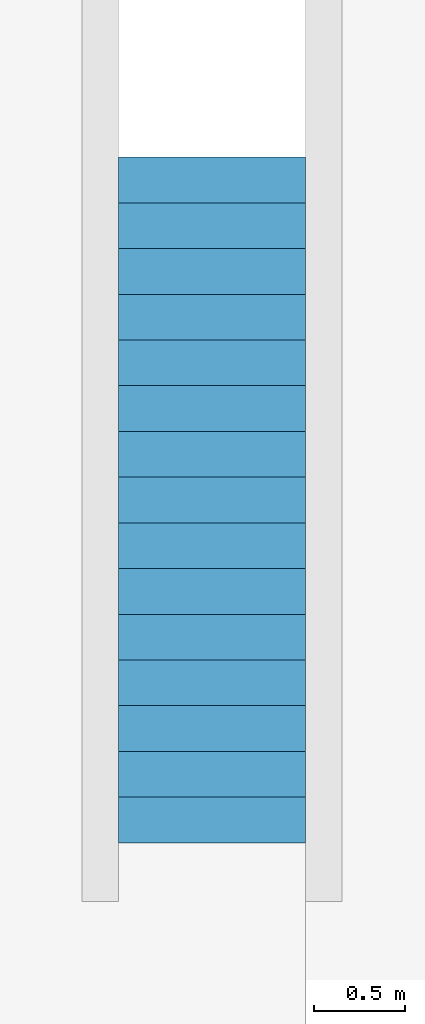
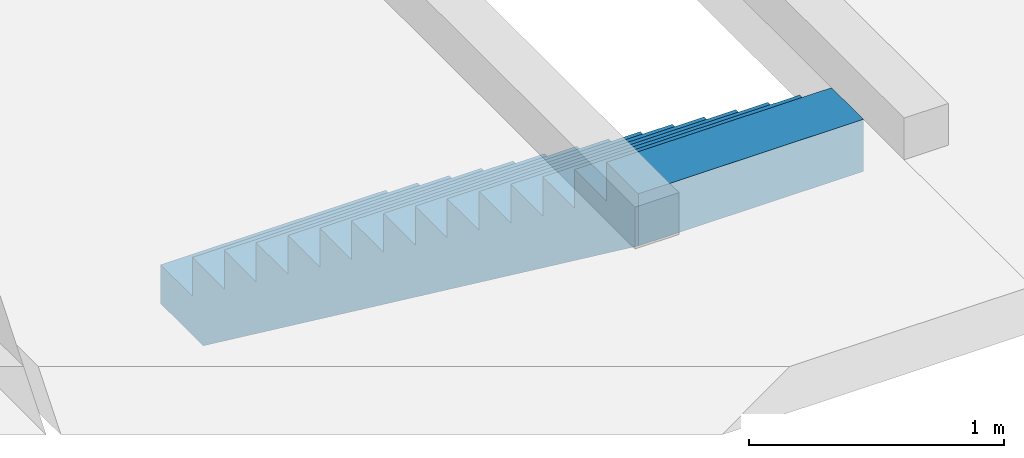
# One storey, part 7 of 8: 1 stair.
"""IFC2X3 building model written with IfcOpenShell, lengths in metres."""

import ifcopenshell
import ifcopenshell.guid

model = None  # the IFC model being written
_history = None  # IfcOwnerHistory: only IFC2X3 demands one
_inside = {}  # id of a spatial element -> (the spatial element, [elements in it])
_under = {}  # id of a project, library or spatial element -> (it, [spatial elements below it])
_declared = {}  # id of a project -> (the project, [libraries it declares])
_typed = {}  # id of a type object -> (the type object, [elements of that type])
_made_of = {}  # id of a material, layer set ... -> (it, [elements and type objects made of it])


def new_model(schema):
    """Start an empty IFC model of exactly this schema.

    Asked for "IFC4X3", IfcOpenShell would pick the latest addendum, in which some entities
    have other attributes; the version numbers below select the first issue.
    IFC2X3 requires an IfcOwnerHistory on every rooted entity: one is made here for all.
    """
    global model, _history
    if schema == "IFC4X3":
        model = ifcopenshell.file(schema_version=(4, 3, 0, 0))
    else:
        model = ifcopenshell.file(schema=schema)
    _inside.clear()
    _under.clear()
    _declared.clear()
    _typed.clear()
    _made_of.clear()
    _history = None
    if model.schema == "IFC2X3":
        org = make("IfcOrganization", Name="unknown")
        user = make(
            "IfcPersonAndOrganization",
            ThePerson=make("IfcPerson", FamilyName="unknown"),
            TheOrganization=org,
        )
        app = make(
            "IfcApplication",
            ApplicationDeveloper=org,
            Version="unknown",
            ApplicationFullName="unknown",
            ApplicationIdentifier="unknown",
        )
        _history = make(
            "IfcOwnerHistory",
            OwningUser=user,
            OwningApplication=app,
            ChangeAction="ADDED",
            CreationDate=0,
        )
    return model


def make(cls, **values):
    """One entity of the class cls with the attributes given. An attribute that is None is left unset."""
    return model.create_entity(
        cls, **{name: value for name, value in values.items() if value is not None}
    )


def entity(cls, *values):
    """Any entity or typed value of the class cls, its attributes in the order of the schema. None: left unset."""
    e = model.create_entity(cls)
    for i, value in enumerate(values):
        if value is not None:
            e[i] = value
    return e


def rooted(cls, **values):
    """An entity with a GlobalId (a new one), such as an element, a storey or a relation."""
    return make(cls, GlobalId=ifcopenshell.guid.new(), OwnerHistory=_history, **values)


def si_unit(unit_type, name, prefix=None):
    """IfcSIUnit, for example si_unit("LENGTHUNIT", "METRE", prefix="MILLI")."""
    return make("IfcSIUnit", UnitType=unit_type, Prefix=prefix, Name=name)


def converted_unit(unit_type, name, factor, base, dimensions=None, offset=None):
    """IfcConversionBasedUnit, such as the inch: factor (a typed value) times the base unit."""
    return make(
        "IfcConversionBasedUnit"
        if offset is None
        else "IfcConversionBasedUnitWithOffset",
        ConversionOffset=offset,
        Dimensions=None
        if dimensions is None
        else entity("IfcDimensionalExponents", *dimensions),
        UnitType=unit_type,
        Name=name,
        ConversionFactor=make(
            "IfcMeasureWithUnit", ValueComponent=factor, UnitComponent=base
        ),
    )


def money_unit(currency):
    """IfcMonetaryUnit."""
    return make("IfcMonetaryUnit", Currency=currency)


def assignment(units):
    """IfcUnitAssignment: the units of a project."""
    return None if units is None else make("IfcUnitAssignment", Units=units)


def point(xyz):
    """IfcCartesianPoint."""
    return None if xyz is None else make("IfcCartesianPoint", Coordinates=xyz)


def direction(xyz):
    """IfcDirection."""
    return None if xyz is None else make("IfcDirection", DirectionRatios=xyz)


def frame(location, z_axis=None, x_axis=None):
    """IfcAxis2Placement3D, a coordinate frame: its origin and axes. An axis left out is left unset."""
    return make(
        "IfcAxis2Placement3D",
        Location=point(location),
        Axis=direction(z_axis),
        RefDirection=direction(x_axis),
    )


def origin_with_axes():
    """The frame at (0, 0, 0) with the z axis (0, 0, 1) and the x axis (1, 0, 0) written out."""
    return frame((0.0, 0.0, 0.0), z_axis=(0.0, 0.0, 1.0), x_axis=(1.0, 0.0, 0.0))


def place(relative_to, where):
    """IfcLocalPlacement: puts the frame where relative to a parent placement (None: the world)."""
    return make(
        "IfcLocalPlacement", PlacementRelTo=relative_to, RelativePlacement=where
    )


def context(
    kind, dimensions, precision=None, world=None, true_north=None, identifier=None
):
    """IfcGeometricRepresentationContext, for example the 3D "Model" context."""
    return make(
        "IfcGeometricRepresentationContext",
        ContextIdentifier=identifier,
        ContextType=kind,
        CoordinateSpaceDimension=dimensions,
        Precision=precision,
        WorldCoordinateSystem=world,
        TrueNorth=true_north,
    )


def subcontext(parent, identifier, kind, view, scale=None):
    """IfcGeometricRepresentationSubContext, for example "Body" below "Model"."""
    return make(
        "IfcGeometricRepresentationSubContext",
        ContextIdentifier=identifier,
        ContextType=kind,
        ParentContext=parent,
        TargetScale=scale,
        TargetView=view,
    )


def project(units=None, contexts=None):
    """IfcProject with its units and contexts."""
    return rooted(
        "IfcProject",
        Name="project",
        RepresentationContexts=contexts,
        UnitsInContext=assignment(units),
    )


def spatial(cls, under=None, at=None, **own):
    """A site, building, storey or space (cls), placed at a placement, below another one or the project."""
    s = rooted(cls, ObjectPlacement=at, **own)
    if under is not None:
        _under.setdefault(under.id(), (under, []))[1].append(s)
    return s


def faces_of(points, faces, orient=None, outer=None):
    """IfcFace entities. A face is a list of loops; a loop is a list of indices into points, from 0.

    orient and outer hold one flag for each loop. By default every Orientation is true, the
    first loop of a face is its IfcFaceOuterBound and the others are IfcFaceBound.
    """
    made = []
    for i, loops in enumerate(faces):
        bounds = []
        for j, loop in enumerate(loops):
            is_outer = j == 0 if outer is None else outer[i][j]
            bounds.append(
                make(
                    "IfcFaceOuterBound" if is_outer else "IfcFaceBound",
                    Bound=make("IfcPolyLoop", Polygon=[points[k] for k in loop]),
                    Orientation=True if orient is None else orient[i][j],
                )
            )
        made.append(make("IfcFace", Bounds=bounds))
    return made


def faceted_brep(points, faces, orient=None, outer=None, voids=None):
    """IfcFacetedBrep: a solid bounded by flat faces; with voids (closed shells), ...WithVoids."""
    shared = [point(p) for p in points]
    hull = make("IfcClosedShell", CfsFaces=faces_of(shared, faces, orient, outer))
    if voids is None:
        return make("IfcFacetedBrep", Outer=hull)
    return make(
        "IfcFacetedBrepWithVoids",
        Outer=hull,
        Voids=[
            make(cls, CfsFaces=faces_of(shared, fs, o, b)) for cls, fs, o, b in voids
        ],
    )


def shape(context_of_items, identifier, shape_type, items):
    """IfcShapeRepresentation: the items that make up one representation, for example the "Body"."""
    return make(
        "IfcShapeRepresentation",
        ContextOfItems=context_of_items,
        RepresentationIdentifier=identifier,
        RepresentationType=shape_type,
        Items=items,
    )


def material(Name=None, Category=None):
    """IfcMaterial."""
    return make("IfcMaterial", Name=Name, Category=Category)


def made_of(thing, what):
    """Note that an element or type object is made of a material, layer set ...; save() writes the relation."""
    if what is not None:
        _made_of.setdefault(what.id(), (what, []))[1].append(thing)
    return thing


def element(
    cls,
    number,
    at=None,
    inside=None,
    cuts=None,
    type_object=None,
    material=None,
    context=None,
    identifier="Body",
    shape_type=None,
    held_by="IfcProductDefinitionShape",
    body=None,
    shapes=None,
    **own,
):
    """One element of the class cls, such as IfcWall. Its Tag is "e" and its number.

    at: its placement. inside: the storey or other place that contains it. cuts: it is an
    opening in that element (IfcRelVoidsElement). A single representation is given by context,
    identifier, shape_type and body (its items); several are given by shapes. held_by: the class
    of the entity that holds the representations. save() writes the other relations.
    """
    e = rooted(cls, Tag="e%d" % number, ObjectPlacement=at, **own)
    if body is not None:
        shapes = [shape(context, identifier, shape_type, body)]
    if shapes is not None:
        e.Representation = make(held_by, Representations=shapes)
    if inside is not None:
        _inside.setdefault(inside.id(), (inside, []))[1].append(e)
    if cuts is not None:
        rooted(
            "IfcRelVoidsElement", RelatingBuildingElement=cuts, RelatedOpeningElement=e
        )
    if type_object is not None:
        _typed.setdefault(type_object.id(), (type_object, []))[1].append(e)
    return made_of(e, material)


def aggregate(whole, parts):
    """IfcRelAggregates: a whole, such as a stair, and the parts it consists of."""
    return rooted("IfcRelAggregates", RelatingObject=whole, RelatedObjects=parts)


def save(model, path):
    """Write the relations noted so far, then the file.

    IfcRelAggregates (storeys below a building ...), IfcRelContainedInSpatialStructure (elements
    in a storey), IfcRelDefinesByType, IfcRelAssociatesMaterial and IfcRelDeclares: one each for
    every whole, place, type object, material and project.
    """
    for whole, parts in _under.values():
        aggregate(whole, parts)
    for where, things in _inside.values():
        rooted(
            "IfcRelContainedInSpatialStructure",
            RelatedElements=things,
            RelatingStructure=where,
        )
    for kind, things in _typed.values():
        rooted("IfcRelDefinesByType", RelatedObjects=things, RelatingType=kind)
    for what, things in _made_of.values():
        rooted("IfcRelAssociatesMaterial", RelatedObjects=things, RelatingMaterial=what)
    for by, libraries in _declared.values():
        rooted("IfcRelDeclares", RelatingContext=by, RelatedDefinitions=libraries)
    model.write(path)


model = new_model("IFC2X3")

# Units and contexts
model_context = context("Model", 3, precision=1e-05, world=origin_with_axes(), true_north=direction((0.0, 1.0)))
body_context = subcontext(model_context, "Body", "Model", "MODEL_VIEW")
ifc_project = project(units=[si_unit("LENGTHUNIT", "METRE"), si_unit("AREAUNIT", "SQUARE_METRE"), si_unit("VOLUMEUNIT", "CUBIC_METRE"), converted_unit("PLANEANGLEUNIT", "DEGREE", entity("IfcPlaneAngleMeasure", 0.0174532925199), si_unit("PLANEANGLEUNIT", "RADIAN"), dimensions=[0, 0, 0, 0, 0, 0, 0]), si_unit("SOLIDANGLEUNIT", "STERADIAN"), money_unit("EUR"), si_unit("TIMEUNIT", "SECOND"), si_unit("MASSUNIT", "GRAM"), si_unit("THERMODYNAMICTEMPERATUREUNIT", "DEGREE_CELSIUS"), si_unit("LUMINOUSINTENSITYUNIT", "LUMEN")], contexts=[model_context])

# Site, building, storey
site_placement = place(None, origin_with_axes())
site = spatial("IfcSite", under=ifc_project, at=site_placement, Name="Gelände", CompositionType="ELEMENT")
building_placement = place(site_placement, origin_with_axes())
building = spatial("IfcBuilding", under=site, at=building_placement, Name="Gebäude", CompositionType="ELEMENT")
storey_placement = place(building_placement, origin_with_axes())
storey = spatial("IfcBuildingStorey", under=building, at=storey_placement, Name="Erdgeschoss", CompositionType="ELEMENT", Elevation=0.0)

# Stair
ifc_material = material(Name="Beton")
stair_placement = place(storey_placement, frame((21.8539792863, 0.257794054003, -2.8), z_axis=(0.0, 0.0, 1.0), x_axis=(0.0, -1.0, 0.0)))
element("IfcStair", 1, at=stair_placement, inside=storey, material=ifc_material, Name="Treppe-003", ShapeType="NOTDEFINED", context=body_context, shape_type="Brep", body=[
    faceted_brep([(0.0, 1.02, 0.0), (0.0, 0.0, 0.0), (0.0, 0.0, 0.005), (0.0, 1.02, 0.005), (0.25, 0.0, 0.0), (0.25, 0.0, 0.18667), (0.0, 0.0, 0.18667), (0.0, 1.02, 0.18667), (0.25, 1.02, 0.18667), (0.25, 1.02, 0.0), (0.33429, 0.0, 0.0), (0.33429, 0.0, 0.37333), (0.25, 0.0, 0.37333), (0.25, 1.02, 0.37333), (0.33429, 1.02, 0.37333), (0.33429, 1.02, 0.0), (0.5, 0.0, 0.12371), (0.5, 0.0, 0.37333), (0.5, 1.02, 0.37333), (0.5, 1.02, 0.12371), (0.75, 0.0, 0.31035), (0.75, 0.0, 0.56), (0.5, 0.0, 0.56), (0.5, 1.02, 0.56), (0.75, 1.02, 0.56), (0.75, 1.02, 0.31035), (1.0, 0.0, 0.49699), (1.0, 0.0, 0.74667), (0.75, 0.0, 0.74667), (0.75, 1.02, 0.74667), (1.0, 1.02, 0.74667), (1.0, 1.02, 0.49699), (1.25, 0.0, 0.68363), (1.25, 0.0, 0.93333), (1.0, 0.0, 0.93333), (1.0, 1.02, 0.93333), (1.25, 1.02, 0.93333), (1.25, 1.02, 0.68363), (1.5, 0.0, 0.87026), (1.5, 0.0, 1.12), (1.25, 0.0, 1.12), (1.25, 1.02, 1.12), (1.5, 1.02, 1.12), (1.5, 1.02, 0.87026), (1.75, 0.0, 1.0569), (1.75, 0.0, 1.30667), (1.5, 0.0, 1.30667), (1.5, 1.02, 1.30667), (1.75, 1.02, 1.30667), (1.75, 1.02, 1.0569), (2.0, 0.0, 1.24354), (2.0, 0.0, 1.49333), (1.75, 0.0, 1.49333), (1.75, 1.02, 1.49333), (2.0, 1.02, 1.49333), (2.0, 1.02, 1.24354), (2.25, 0.0, 1.43018), (2.25, 0.0, 1.68), (2.0, 0.0, 1.68), (2.0, 1.02, 1.68), (2.25, 1.02, 1.68), (2.25, 1.02, 1.43018), (2.5, 0.0, 1.61681), (2.5, 0.0, 1.86667), (2.25, 0.0, 1.86667), (2.25, 1.02, 1.86667), (2.5, 1.02, 1.86667), (2.5, 1.02, 1.61681), (2.75, 0.0, 1.80345), (2.75, 0.0, 2.05333), (2.5, 0.0, 2.05333), (2.5, 1.02, 2.05333), (2.75, 1.02, 2.05333), (2.75, 1.02, 1.80345), (3.0, 0.0, 1.99009), (3.0, 0.0, 2.24), (2.75, 0.0, 2.24), (2.75, 1.02, 2.24), (3.0, 1.02, 2.24), (3.0, 1.02, 1.99009), (3.25, 0.0, 2.17673), (3.25, 0.0, 2.42667), (3.0, 0.0, 2.42667), (3.0, 1.02, 2.42667), (3.25, 1.02, 2.42667), (3.25, 1.02, 2.17673), (3.5, 0.0, 2.36336), (3.5, 0.0, 2.61333), (3.25, 0.0, 2.61333), (3.25, 1.02, 2.61333), (3.5, 1.02, 2.61333), (3.5, 1.02, 2.36336), (3.75, 0.0, 2.55), (3.75, 0.0, 2.8), (3.5, 0.0, 2.8), (3.5, 1.02, 2.8), (3.75, 1.02, 2.8), (3.75, 1.02, 2.55)], [[[0, 1, 2, 3]], [[1, 0, 4]], [[1, 4, 5, 6, 2]], [[3, 2, 6, 7]], [[0, 3, 7, 8, 9]], [[4, 0, 10]], [[4, 10, 11, 12, 5]], [[7, 6, 5, 8]], [[9, 8, 13, 14, 15]], [[10, 0, 9]], [[10, 16, 17, 11]], [[13, 12, 11, 17, 18, 14]], [[8, 5, 12, 13]], [[15, 14, 18, 19]], [[10, 9, 15]], [[10, 15, 16]], [[16, 20, 21, 22, 17]], [[18, 17, 22, 23]], [[19, 18, 23, 24, 25]], [[16, 15, 19]], [[16, 19, 20]], [[20, 26, 27, 28, 21]], [[23, 22, 21, 24]], [[25, 24, 29, 30, 31]], [[20, 19, 25]], [[20, 25, 26]], [[26, 32, 33, 34, 27]], [[29, 28, 27, 30]], [[24, 21, 28, 29]], [[31, 30, 35, 36, 37]], [[26, 25, 31]], [[26, 31, 32]], [[32, 38, 39, 40, 33]], [[35, 34, 33, 36]], [[30, 27, 34, 35]], [[37, 36, 41, 42, 43]], [[32, 31, 37]], [[32, 37, 38]], [[38, 44, 45, 46, 39]], [[41, 40, 39, 42]], [[36, 33, 40, 41]], [[43, 42, 47, 48, 49]], [[38, 37, 43]], [[38, 43, 44]], [[44, 50, 51, 52, 45]], [[47, 46, 45, 48]], [[42, 39, 46, 47]], [[49, 48, 53, 54, 55]], [[44, 43, 49]], [[44, 49, 50]], [[50, 56, 57, 58, 51]], [[53, 52, 51, 54]], [[48, 45, 52, 53]], [[55, 54, 59, 60, 61]], [[50, 49, 55]], [[50, 55, 56]], [[56, 62, 63, 64, 57]], [[59, 58, 57, 60]], [[54, 51, 58, 59]], [[61, 60, 65, 66, 67]], [[56, 55, 61]], [[56, 61, 62]], [[62, 68, 69, 70, 63]], [[65, 64, 63, 66]], [[60, 57, 64, 65]], [[67, 66, 71, 72, 73]], [[62, 61, 67]], [[62, 67, 68]], [[68, 74, 75, 76, 69]], [[71, 70, 69, 72]], [[66, 63, 70, 71]], [[73, 72, 77, 78, 79]], [[68, 67, 73]], [[68, 73, 74]], [[74, 80, 81, 82, 75]], [[77, 76, 75, 78]], [[72, 69, 76, 77]], [[79, 78, 83, 84, 85]], [[74, 73, 79]], [[74, 79, 80]], [[80, 86, 87, 88, 81]], [[83, 82, 81, 84]], [[78, 75, 82, 83]], [[85, 84, 89, 90, 91]], [[80, 79, 85]], [[80, 85, 86]], [[86, 92, 93, 94, 87]], [[89, 88, 87, 90]], [[84, 81, 88, 89]], [[91, 90, 95, 96, 97]], [[86, 85, 91]], [[86, 91, 92]], [[92, 97, 96, 93]], [[95, 94, 93, 96]], [[90, 87, 94, 95]], [[92, 91, 97]]]),
])

save(model, "model.ifc")
